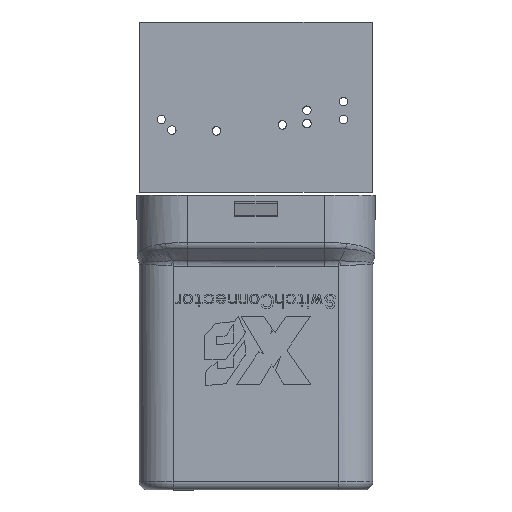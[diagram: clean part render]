
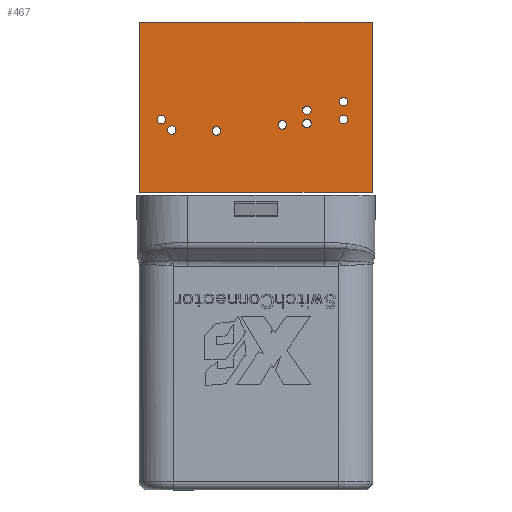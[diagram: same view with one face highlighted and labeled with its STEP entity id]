
A CAD part, top view. The second image highlights one B-rep face of the part: STEP entity #467.
In plain terms, the highlighted planar face has unit normal (0, 0, 1).
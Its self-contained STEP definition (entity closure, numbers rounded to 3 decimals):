
#50 = VERTEX_POINT('',#51);
#51 = CARTESIAN_POINT('',(4.05,-3.25,0.445));
#57 = EDGE_CURVE('',#50,#58,#60,.T.);
#58 = VERTEX_POINT('',#59);
#59 = CARTESIAN_POINT('',(-4.15,-3.25,0.445));
#60 = LINE('',#61,#62);
#61 = CARTESIAN_POINT('',(4.05,-3.25,0.445));
#62 = VECTOR('',#63,1.);
#63 = DIRECTION('',(-1.,0.,0.));
#90 = VERTEX_POINT('',#91);
#91 = CARTESIAN_POINT('',(4.05,-9.25,0.445));
#97 = EDGE_CURVE('',#90,#50,#98,.T.);
#98 = LINE('',#99,#100);
#99 = CARTESIAN_POINT('',(4.05,-9.25,0.445));
#100 = VECTOR('',#101,1.);
#101 = DIRECTION('',(0.,1.,0.));
#119 = EDGE_CURVE('',#58,#120,#122,.T.);
#120 = VERTEX_POINT('',#121);
#121 = CARTESIAN_POINT('',(-4.15,-9.25,0.445));
#122 = LINE('',#123,#124);
#123 = CARTESIAN_POINT('',(-4.15,-3.25,0.445));
#124 = VECTOR('',#125,1.);
#125 = DIRECTION('',(0.,-1.,0.));
#150 = EDGE_CURVE('',#120,#90,#151,.T.);
#151 = LINE('',#152,#153);
#152 = CARTESIAN_POINT('',(-4.15,-9.25,0.445));
#153 = VECTOR('',#154,1.);
#154 = DIRECTION('',(1.,0.,0.));
#174 = VERTEX_POINT('',#175);
#175 = CARTESIAN_POINT('',(-2.868,-7.062,0.445));
#181 = EDGE_CURVE('',#174,#174,#182,.T.);
#182 = CIRCLE('',#183,0.15);
#183 = AXIS2_PLACEMENT_3D('',#184,#185,#186);
#184 = CARTESIAN_POINT('',(-3.018,-7.062,0.445));
#185 = DIRECTION('',(0.,0.,1.));
#186 = DIRECTION('',(1.,0.,-0.));
#207 = VERTEX_POINT('',#208);
#208 = CARTESIAN_POINT('',(-1.297,-7.091,0.445));
#214 = EDGE_CURVE('',#207,#207,#215,.T.);
#215 = CIRCLE('',#216,0.15);
#216 = AXIS2_PLACEMENT_3D('',#217,#218,#219);
#217 = CARTESIAN_POINT('',(-1.447,-7.091,0.445));
#218 = DIRECTION('',(0.,0.,1.));
#219 = DIRECTION('',(1.,0.,-0.));
#240 = VERTEX_POINT('',#241);
#241 = CARTESIAN_POINT('',(-3.24,-6.69,0.445));
#247 = EDGE_CURVE('',#240,#240,#248,.T.);
#248 = CIRCLE('',#249,0.15);
#249 = AXIS2_PLACEMENT_3D('',#250,#251,#252);
#250 = CARTESIAN_POINT('',(-3.39,-6.69,0.445));
#251 = DIRECTION('',(0.,0.,1.));
#252 = DIRECTION('',(1.,0.,-0.));
#273 = VERTEX_POINT('',#274);
#274 = CARTESIAN_POINT('',(1.03,-6.88,0.445));
#280 = EDGE_CURVE('',#273,#273,#281,.T.);
#281 = CIRCLE('',#282,0.15);
#282 = AXIS2_PLACEMENT_3D('',#283,#284,#285);
#283 = CARTESIAN_POINT('',(0.88,-6.88,0.445));
#284 = DIRECTION('',(0.,0.,1.));
#285 = DIRECTION('',(1.,0.,-0.));
#306 = VERTEX_POINT('',#307);
#307 = CARTESIAN_POINT('',(1.901,-6.837,0.445));
#313 = EDGE_CURVE('',#306,#306,#314,.T.);
#314 = CIRCLE('',#315,0.15);
#315 = AXIS2_PLACEMENT_3D('',#316,#317,#318);
#316 = CARTESIAN_POINT('',(1.751,-6.837,0.445));
#317 = DIRECTION('',(0.,0.,1.));
#318 = DIRECTION('',(1.,0.,-0.));
#339 = VERTEX_POINT('',#340);
#340 = CARTESIAN_POINT('',(3.189,-6.687,0.445));
#346 = EDGE_CURVE('',#339,#339,#347,.T.);
#347 = CIRCLE('',#348,0.15);
#348 = AXIS2_PLACEMENT_3D('',#349,#350,#351);
#349 = CARTESIAN_POINT('',(3.039,-6.687,0.445));
#350 = DIRECTION('',(0.,0.,1.));
#351 = DIRECTION('',(1.,0.,-0.));
#372 = VERTEX_POINT('',#373);
#373 = CARTESIAN_POINT('',(1.901,-6.364,0.445));
#379 = EDGE_CURVE('',#372,#372,#380,.T.);
#380 = CIRCLE('',#381,0.15);
#381 = AXIS2_PLACEMENT_3D('',#382,#383,#384);
#382 = CARTESIAN_POINT('',(1.751,-6.364,0.445));
#383 = DIRECTION('',(0.,0.,1.));
#384 = DIRECTION('',(1.,0.,-0.));
#405 = VERTEX_POINT('',#406);
#406 = CARTESIAN_POINT('',(3.185,-6.061,0.445));
#412 = EDGE_CURVE('',#405,#405,#413,.T.);
#413 = CIRCLE('',#414,0.15);
#414 = AXIS2_PLACEMENT_3D('',#415,#416,#417);
#415 = CARTESIAN_POINT('',(3.035,-6.061,0.445));
#416 = DIRECTION('',(0.,0.,1.));
#417 = DIRECTION('',(1.,0.,-0.));
#467 = ADVANCED_FACE('',(#468,#474,#477,#480,#483,#486,#489,#492,#495),
  #498,.T.);
#468 = FACE_BOUND('',#469,.T.);
#469 = EDGE_LOOP('',(#470,#471,#472,#473));
#470 = ORIENTED_EDGE('',*,*,#57,.T.);
#471 = ORIENTED_EDGE('',*,*,#119,.T.);
#472 = ORIENTED_EDGE('',*,*,#150,.T.);
#473 = ORIENTED_EDGE('',*,*,#97,.T.);
#474 = FACE_BOUND('',#475,.T.);
#475 = EDGE_LOOP('',(#476));
#476 = ORIENTED_EDGE('',*,*,#181,.F.);
#477 = FACE_BOUND('',#478,.T.);
#478 = EDGE_LOOP('',(#479));
#479 = ORIENTED_EDGE('',*,*,#214,.F.);
#480 = FACE_BOUND('',#481,.T.);
#481 = EDGE_LOOP('',(#482));
#482 = ORIENTED_EDGE('',*,*,#247,.F.);
#483 = FACE_BOUND('',#484,.T.);
#484 = EDGE_LOOP('',(#485));
#485 = ORIENTED_EDGE('',*,*,#280,.F.);
#486 = FACE_BOUND('',#487,.T.);
#487 = EDGE_LOOP('',(#488));
#488 = ORIENTED_EDGE('',*,*,#313,.F.);
#489 = FACE_BOUND('',#490,.T.);
#490 = EDGE_LOOP('',(#491));
#491 = ORIENTED_EDGE('',*,*,#346,.F.);
#492 = FACE_BOUND('',#493,.T.);
#493 = EDGE_LOOP('',(#494));
#494 = ORIENTED_EDGE('',*,*,#379,.F.);
#495 = FACE_BOUND('',#496,.T.);
#496 = EDGE_LOOP('',(#497));
#497 = ORIENTED_EDGE('',*,*,#412,.F.);
#498 = PLANE('',#499);
#499 = AXIS2_PLACEMENT_3D('',#500,#501,#502);
#500 = CARTESIAN_POINT('',(-0.05,-6.25,0.445));
#501 = DIRECTION('',(0.,0.,1.));
#502 = DIRECTION('',(1.,0.,-0.));
